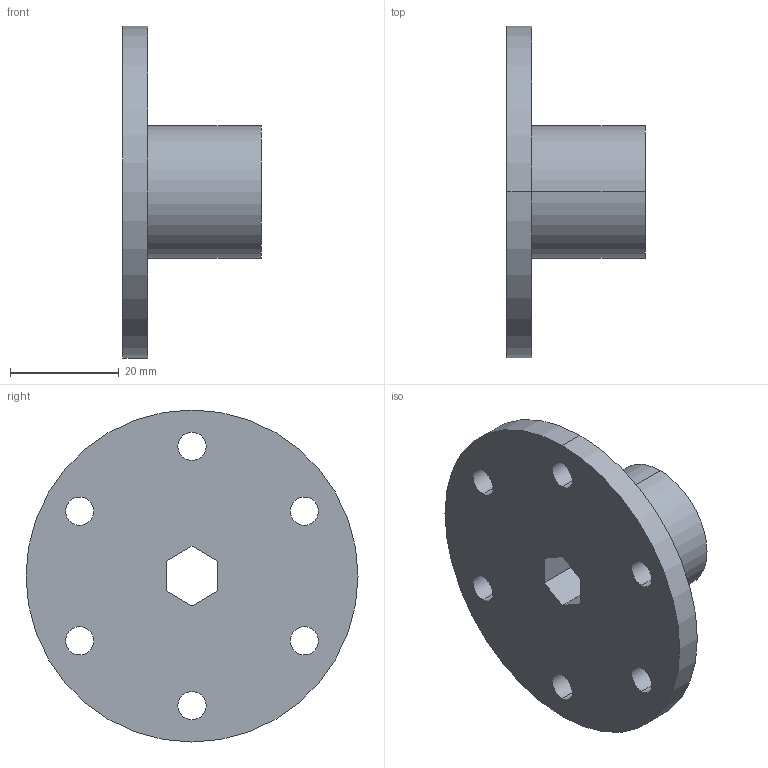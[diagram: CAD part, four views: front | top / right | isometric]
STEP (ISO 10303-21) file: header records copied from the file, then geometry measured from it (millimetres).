
FILE_DESCRIPTION (( 'STEP AP203' ), '1' );
FILE_NAME ('375 Hex Hub.STEP', '2012-11-07T14:16:06', ( '' ), ( '' ), 'SwSTEP 2.0', 'SolidWorks 2010', '' );
FILE_SCHEMA (( 'CONFIG_CONTROL_DESIGN' ));
Length unit declared in the file: inch
Products named in the file (1): 375 Hex Hub
Bounding box: 25.4 x 60.96 x 60.96 mm (x, y, z)
Volume: 20455.7 mm3; surface area: 9179.5 mm2
Topology: 1 solids, 1 shells, 25 faces, 66 edges, 44 vertices
Faces by surface type: cylinder 16, plane 9
Entity records: 899 total; most frequent: DIRECTION 150, CARTESIAN_POINT 136, ORIENTED_EDGE 132, EDGE_CURVE 66, AXIS2_PLACEMENT_3D 58, VERTEX_POINT 44, EDGE_LOOP 40, VECTOR 34
